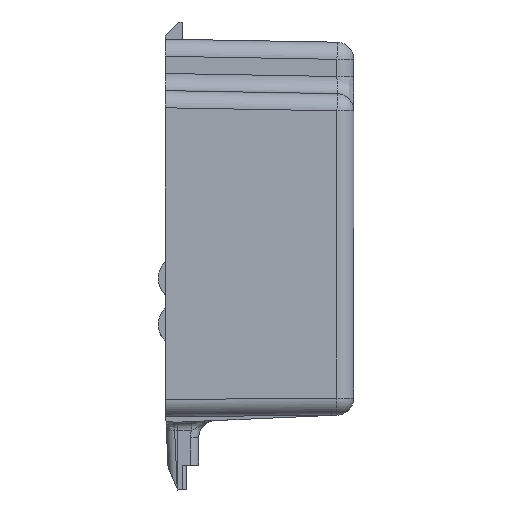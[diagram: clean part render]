
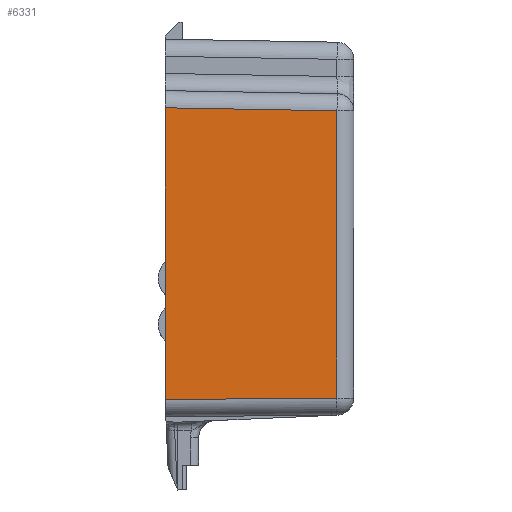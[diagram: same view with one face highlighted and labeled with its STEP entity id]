
A CAD part, left-side view. The second image highlights one B-rep face of the part: STEP entity #6331.
In plain terms, the highlighted planar face has unit normal (-1, -0.018, 0).
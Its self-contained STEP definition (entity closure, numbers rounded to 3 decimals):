
#118 = EDGE_CURVE ( 'NONE', #564, #4811, #7373, .T. ) ;
#195 = CARTESIAN_POINT ( 'NONE',  ( -13.925, 0.983, -20.913 ) ) ;
#246 = ORIENTED_EDGE ( 'NONE', *, *, #5251, .T. ) ;
#564 = VERTEX_POINT ( 'NONE', #7542 ) ;
#604 = CARTESIAN_POINT ( 'NONE',  ( -14.1, 11., -4. ) ) ;
#1509 = VECTOR ( 'NONE', #4801, 1000. ) ;
#1632 = DIRECTION ( 'NONE',  ( 0.017, -1., 0. ) ) ;
#2008 = DIRECTION ( 'NONE',  ( -0.017, 1., 0.017 ) ) ;
#2144 = DIRECTION ( 'NONE',  ( 0., 0., 1. ) ) ;
#2221 = CARTESIAN_POINT ( 'NONE',  ( -14.1, 11.009, -21. ) ) ;
#2232 = CARTESIAN_POINT ( 'NONE',  ( -14.1, 11., -22. ) ) ;
#2651 = AXIS2_PLACEMENT_3D ( 'NONE', #4836, #7398, #1632 ) ;
#2756 = ORIENTED_EDGE ( 'NONE', *, *, #7578, .T. ) ;
#3232 = LINE ( 'NONE', #4506, #6082 ) ;
#4248 = PLANE ( 'NONE',  #2651 ) ;
#4297 = EDGE_CURVE ( 'NONE', #5992, #6119, #7966, .T. ) ;
#4506 = CARTESIAN_POINT ( 'NONE',  ( -14.095, 10.686, -4.005 ) ) ;
#4801 = DIRECTION ( 'NONE',  ( 0.017, -1., 0.009 ) ) ;
#4807 = CARTESIAN_POINT ( 'NONE',  ( -13.925, 0.983, -22. ) ) ;
#4808 = DIRECTION ( 'NONE',  ( 0., 0., 1. ) ) ;
#4811 = VERTEX_POINT ( 'NONE', #604 ) ;
#4836 = CARTESIAN_POINT ( 'NONE',  ( -14.1, 11., -22. ) ) ;
#5202 = VECTOR ( 'NONE', #2144, 1000. ) ;
#5251 = EDGE_CURVE ( 'NONE', #6119, #4811, #3232, .T. ) ;
#5304 = VECTOR ( 'NONE', #4808, 1000. ) ;
#5315 = ORIENTED_EDGE ( 'NONE', *, *, #118, .F. ) ;
#5384 = FACE_OUTER_BOUND ( 'NONE', #5669, .T. ) ;
#5669 = EDGE_LOOP ( 'NONE', ( #2756, #8329, #246, #5315 ) ) ;
#5992 = VERTEX_POINT ( 'NONE', #195 ) ;
#6082 = VECTOR ( 'NONE', #2008, 1000. ) ;
#6119 = VERTEX_POINT ( 'NONE', #6533 ) ;
#6331 = ADVANCED_FACE ( 'NONE', ( #5384 ), #4248, .T. ) ;
#6533 = CARTESIAN_POINT ( 'NONE',  ( -13.925, 0.983, -4.175 ) ) ;
#7373 = LINE ( 'NONE', #2232, #5304 ) ;
#7398 = DIRECTION ( 'NONE',  ( -1., -0.017, 0. ) ) ;
#7542 = CARTESIAN_POINT ( 'NONE',  ( -14.1, 11., -21. ) ) ;
#7578 = EDGE_CURVE ( 'NONE', #564, #5992, #8001, .T. ) ;
#7966 = LINE ( 'NONE', #4807, #5202 ) ;
#8001 = LINE ( 'NONE', #2221, #1509 ) ;
#8329 = ORIENTED_EDGE ( 'NONE', *, *, #4297, .T. ) ;
